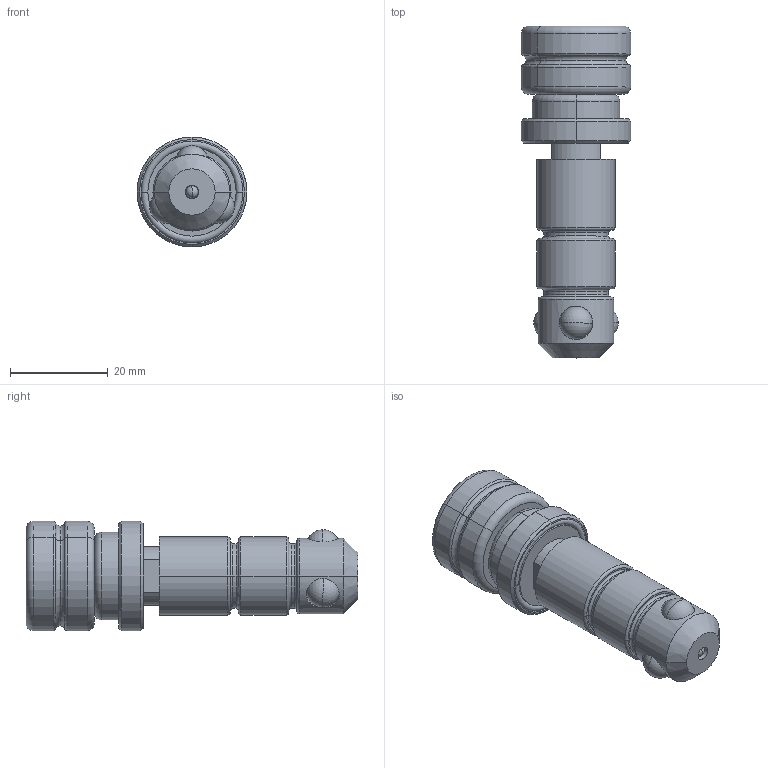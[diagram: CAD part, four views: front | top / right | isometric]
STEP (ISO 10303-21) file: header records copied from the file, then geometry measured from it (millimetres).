
FILE_DESCRIPTION (( 'STEP AP203' ), '1' );
FILE_NAME ('160533.step', '2014-08-11T16:04:36', ( 'User' ), ( '' ), 'SwSTEP 2.0', 'SolidWorks 2014', '' );
FILE_SCHEMA (( 'CONFIG_CONTROL_DESIGN' ));
Length unit declared in the file: millimetre
Products named in the file (7): Kappe^Kappe u. O-Ring_160533_Detailliert; O-Ring^Kappe u. O-Ring_160533; Kappe u. O-Ring^160533_Detailliert; Kugel 6,747^160533; 160533; 160533 Koerper^160533_Detailliert; 160533 Spindel^160533_Detailliert
Assembly tree (8 placements, depth 3):
  160533
    160533 Koerper^160533_Detailliert
    160533 Spindel^160533_Detailliert
    Kappe u. O-Ring^160533_Detailliert
      Kappe^Kappe u. O-Ring_160533_Detailliert
      O-Ring^Kappe u. O-Ring_160533
    Kugel 6,747^160533  x3
Bounding box: 22.5 x 68.05 x 22.5 mm (x, y, z)
Volume: 15482.4 mm3; surface area: 9515.1 mm2
Topology: 7 solids, 7 shells, 147 faces, 339 edges, 208 vertices
Faces by surface type: cylinder 46, torus 44, plane 35, cone 14, sphere 8
Entity records: 5247 total; most frequent: CARTESIAN_POINT 1148, DIRECTION 794, ORIENTED_EDGE 632, AXIS2_PLACEMENT_3D 347, EDGE_CURVE 316, VERTEX_POINT 193, CIRCLE 192, EDGE_LOOP 165
